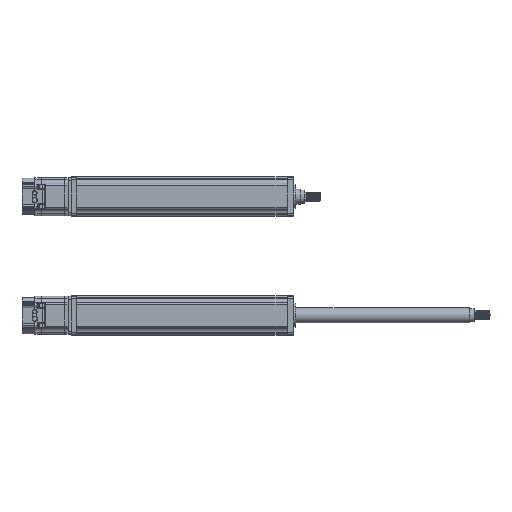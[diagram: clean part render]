
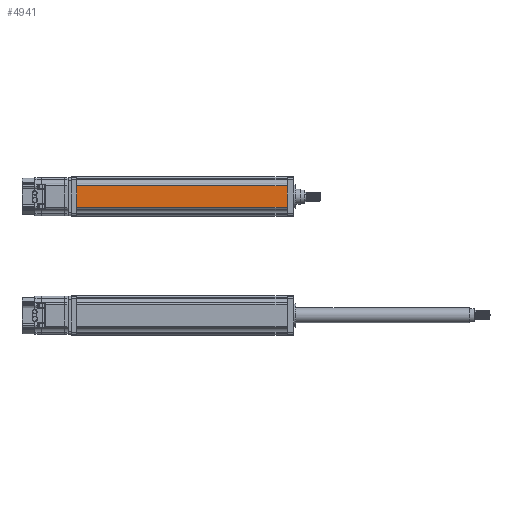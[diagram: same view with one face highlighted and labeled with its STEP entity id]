
A CAD part, top view. The second image highlights one B-rep face of the part: STEP entity #4941.
In plain terms, the highlighted planar face has unit normal (0, 0, 1).
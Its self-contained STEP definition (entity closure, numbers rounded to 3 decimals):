
#4941=ADVANCED_FACE('',(#10168),#10169,.F.);
#10168=FACE_OUTER_BOUND('',#25493,.T.);
#10169=PLANE('',#25494);
#25493=EDGE_LOOP('',(#39825,#39826,#39827,#39828));
#25494=AXIS2_PLACEMENT_3D('',#39829,#39830,#39831);
#39825=ORIENTED_EDGE('',*,*,#50724,.F.);
#39826=ORIENTED_EDGE('',*,*,#50818,.F.);
#39827=ORIENTED_EDGE('',*,*,#50819,.F.);
#39828=ORIENTED_EDGE('',*,*,#49153,.F.);
#39829=CARTESIAN_POINT('',(604.0,182.885,13.693));
#39830=DIRECTION('',(0.,0.,-1.0));
#39831=DIRECTION('',(1.0,0.,0.));
#49153=EDGE_CURVE('',#58722,#58724,#58725,.T.);
#50724=EDGE_CURVE('',#60791,#58722,#60793,.T.);
#50818=EDGE_CURVE('',#60907,#60791,#60908,.T.);
#50819=EDGE_CURVE('',#58724,#60907,#60909,.T.);
#58722=VERTEX_POINT('',#96471);
#58724=VERTEX_POINT('',#96473);
#58725=LINE('',#96474,#96475);
#60791=VERTEX_POINT('',#103830);
#60793=LINE('',#103832,#103833);
#60907=VERTEX_POINT('',#104006);
#60908=LINE('',#104007,#104008);
#60909=LINE('',#104009,#104010);
#96471=CARTESIAN_POINT('',(604.0,150.885,13.693));
#96473=CARTESIAN_POINT('',(604.0,182.885,13.693));
#96474=CARTESIAN_POINT('',(604.0,166.885,13.693));
#96475=VECTOR('',#110087,1.0);
#103830=CARTESIAN_POINT('',(914.0,150.885,13.693));
#103832=CARTESIAN_POINT('',(759.0,150.885,13.693));
#103833=VECTOR('',#111640,1.938);
#104006=CARTESIAN_POINT('',(914.0,182.885,13.693));
#104007=CARTESIAN_POINT('',(914.0,166.885,13.693));
#104008=VECTOR('',#111730,1.0);
#104009=CARTESIAN_POINT('',(759.0,182.885,13.693));
#104010=VECTOR('',#111731,1.938);
#110087=DIRECTION('',(0.,1.0,0.0));
#111640=DIRECTION('',(-1.0,0.,0.));
#111730=DIRECTION('',(0.,-1.0,0.0));
#111731=DIRECTION('',(1.0,0.,0.));
